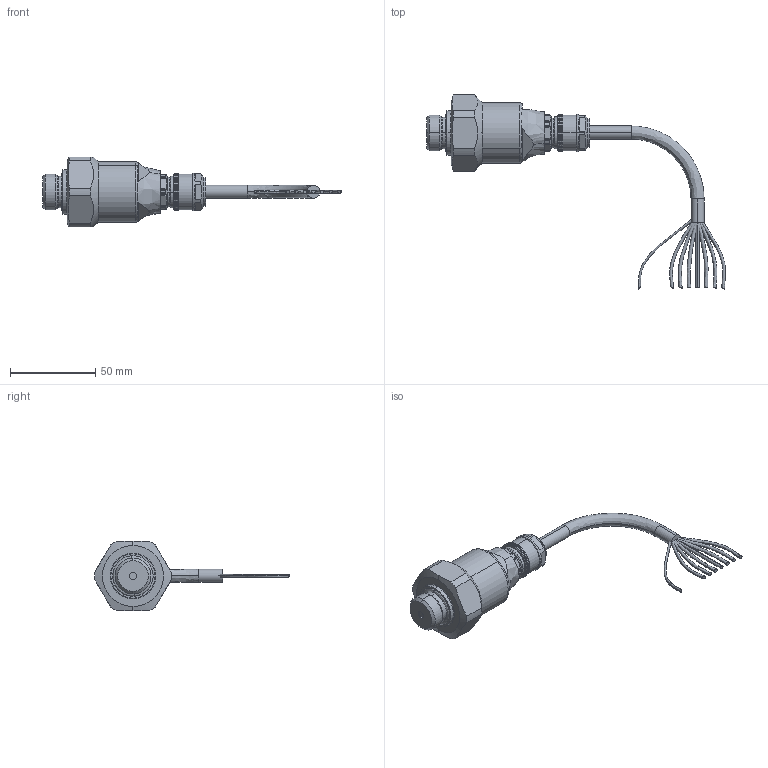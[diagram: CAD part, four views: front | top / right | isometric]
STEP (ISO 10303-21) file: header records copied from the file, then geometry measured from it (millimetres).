
FILE_DESCRIPTION(/* description */ ('STEP AP242','CAx-IF Rec.Pracs.---Representation and Presentation of Product Manufacturing Information (PMI)---4.0---2014-10-13','CAx-IF Rec.Pracs.---3D Tessellated Geometry---0.4---2014-09-14','2;1'),/* implementation_level */ '2;1');
FILE_NAME(/* name */ '671256e2b8e9433b5842c41f',/* time_stamp */ '2024-10-18T12:39:03Z',/* author */ (''),/* organization */ (''),/* preprocessor_version */ 'ST-DEVELOPER v20',/* originating_system */ ' ',/* authorisation */ ' ');
FILE_SCHEMA (('AP242_MANAGED_MODEL_BASED_3D_ENGINEERING_MIM_LF { 1 0 10303 442 1 1 4 }'));
Products named in the file (22): TCD3000 Screw-in (7J); Part 3; Part 5; Part 1; Part 4; Part 2; Deckel <1>; 10000210370_s02_000_auf Ø31; 10000217014_s02_000; Part 6; 10000194063_s02_000; 10000209103_s03_000 <1>; 10000187282_s02_000; 10000024551_S02_000; 10000209102_s02_000; 300556_0 - Lex 216ms tri HTS - Level EX - EMV Kabelverschraubung <1>; 300556_0 - Lex 216ms tri HTS - Level EX - EMV Kabelverschraubung; 257664_8 - DH Lex 216HTT - Druckhülse LevelEx Hochtemperatur; 257665_7 - DR Lex 216HTS - Dichtring LevelEx; 257666_12 - DS Lex 219ms - Druckschraube LevelEx; 252194_0 - OS 15 x 1_5 - O-Ring montiert; 298026_2 - RN Lex 21619ms tri - Rohnippel LevelEx
Assembly tree (21 placements, depth 3):
  TCD3000 Screw-in (7J)
    Part 3
    Part 5
    Part 1
    Part 4
    Part 2
    Deckel <1>
      10000210370_s02_000_auf Ø31
      10000217014_s02_000
    Part 6
    10000194063_s02_000
    10000209103_s03_000 <1>
      10000187282_s02_000
      10000024551_S02_000
      10000209102_s02_000
    300556_0 - Lex 216ms tri HTS - Level EX - EMV Kabelverschraubung <1>
      300556_0 - Lex 216ms tri HTS - Level EX - EMV Kabelverschraubung
      257664_8 - DH Lex 216HTT - Druckhülse LevelEx Hochtemperatur
      257665_7 - DR Lex 216HTS - Dichtring LevelEx
      257666_12 - DS Lex 219ms - Druckschraube LevelEx
      252194_0 - OS 15 x 1_5 - O-Ring montiert
      298026_2 - RN Lex 21619ms tri - Rohnippel LevelEx
Bounding box: 175.67 x 114.34 x 41 mm (x, y, z)
Volume: 47961.6 mm3; surface area: 37190.8 mm2
Topology: 18 solids, 18 shells, 877 faces, 2596 edges, 1696 vertices
Faces by surface type: bspline 877
Entity records: 37640 total; most frequent: CARTESIAN_POINT 18693, ORIENTED_EDGE 5128, DIRECTION 2894, EDGE_CURVE 2564, VERTEX_POINT 1696, AXIS2_PLACEMENT_3D 1394, CIRCLE 1360, EDGE_LOOP 932
